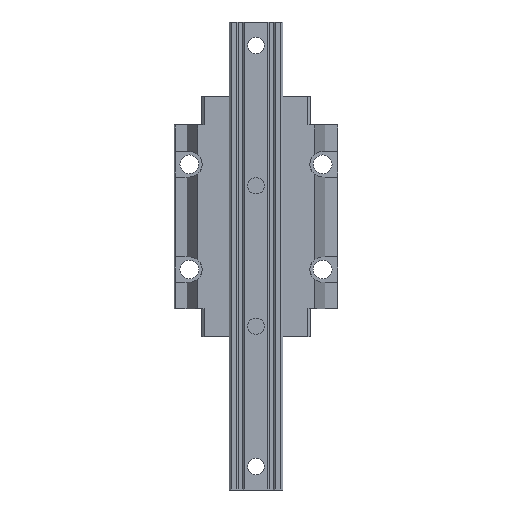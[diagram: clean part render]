
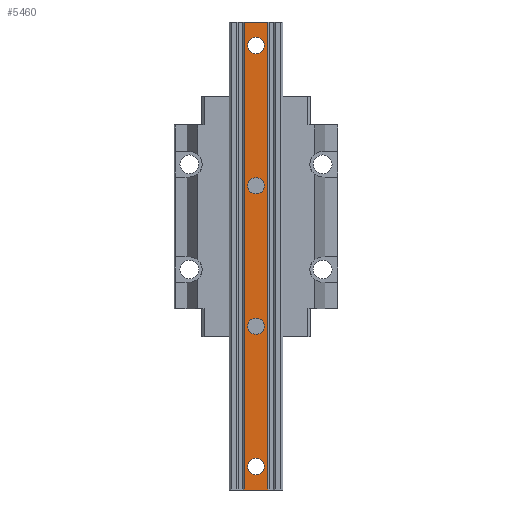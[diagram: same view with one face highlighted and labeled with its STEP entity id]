
A CAD part, front view. The second image highlights one B-rep face of the part: STEP entity #5460.
In plain terms, the highlighted planar face has unit normal (0, -1, 0).
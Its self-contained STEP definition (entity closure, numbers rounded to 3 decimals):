
#27 = PLANE ( 'NONE',  #4575 ) ;
#108 = DIRECTION ( 'NONE',  ( 0., 1., 0. ) ) ;
#110 = LINE ( 'NONE', #1212, #5954 ) ;
#130 = VERTEX_POINT ( 'NONE', #7275 ) ;
#266 = DIRECTION ( 'NONE',  ( 0., 1., 0. ) ) ;
#409 = AXIS2_PLACEMENT_3D ( 'NONE', #1025, #3206, #6596 ) ;
#437 = VERTEX_POINT ( 'NONE', #1636 ) ;
#454 = AXIS2_PLACEMENT_3D ( 'NONE', #3373, #4560, #1617 ) ;
#679 = CARTESIAN_POINT ( 'NONE',  ( 0., 0., -70. ) ) ;
#734 = LINE ( 'NONE', #1853, #4182 ) ;
#751 = AXIS2_PLACEMENT_3D ( 'NONE', #679, #5192, #2859 ) ;
#771 = AXIS2_PLACEMENT_3D ( 'NONE', #4436, #3834, #3284 ) ;
#828 = ORIENTED_EDGE ( 'NONE', *, *, #6935, .T. ) ;
#868 = AXIS2_PLACEMENT_3D ( 'NONE', #5169, #108, #4137 ) ;
#974 = CARTESIAN_POINT ( 'NONE',  ( -11.5, 0., -231.828 ) ) ;
#1025 = CARTESIAN_POINT ( 'NONE',  ( 0., 0., -190. ) ) ;
#1037 = EDGE_CURVE ( 'NONE', #4691, #5849, #6641, .T. ) ;
#1061 = VERTEX_POINT ( 'NONE', #1137 ) ;
#1070 = VERTEX_POINT ( 'NONE', #6164 ) ;
#1129 = FACE_BOUND ( 'NONE', #2939, .T. ) ;
#1137 = CARTESIAN_POINT ( 'NONE',  ( 4.929, 0., 0. ) ) ;
#1138 = CIRCLE ( 'NONE', #2546, 3.5 ) ;
#1212 = CARTESIAN_POINT ( 'NONE',  ( 11.5, 0., 0. ) ) ;
#1288 = ORIENTED_EDGE ( 'NONE', *, *, #2937, .T. ) ;
#1371 = EDGE_LOOP ( 'NONE', ( #6416, #1547, #3245, #5163 ) ) ;
#1399 = CIRCLE ( 'NONE', #454, 3.5 ) ;
#1495 = EDGE_CURVE ( 'NONE', #1061, #2638, #110, .T. ) ;
#1508 = VECTOR ( 'NONE', #1653, 1000. ) ;
#1547 = ORIENTED_EDGE ( 'NONE', *, *, #6107, .T. ) ;
#1554 = VERTEX_POINT ( 'NONE', #2049 ) ;
#1583 = LINE ( 'NONE', #6102, #1508 ) ;
#1617 = DIRECTION ( 'NONE',  ( 0., 0., 1. ) ) ;
#1636 = CARTESIAN_POINT ( 'NONE',  ( 0., 0., -66.5 ) ) ;
#1652 = EDGE_CURVE ( 'NONE', #1554, #1070, #3747, .T. ) ;
#1653 = DIRECTION ( 'NONE',  ( 0., 0., -1. ) ) ;
#1671 = FACE_OUTER_BOUND ( 'NONE', #1371, .T. ) ;
#1853 = CARTESIAN_POINT ( 'NONE',  ( 4.929, 0., -231.828 ) ) ;
#2049 = CARTESIAN_POINT ( 'NONE',  ( 0., 0., -193.5 ) ) ;
#2154 = VERTEX_POINT ( 'NONE', #5507 ) ;
#2257 = CARTESIAN_POINT ( 'NONE',  ( 0., 0., -130. ) ) ;
#2326 = CARTESIAN_POINT ( 'NONE',  ( 0., 0., -73.5 ) ) ;
#2346 = AXIS2_PLACEMENT_3D ( 'NONE', #2257, #266, #5930 ) ;
#2394 = VERTEX_POINT ( 'NONE', #5914 ) ;
#2544 = ORIENTED_EDGE ( 'NONE', *, *, #4536, .T. ) ;
#2546 = AXIS2_PLACEMENT_3D ( 'NONE', #7168, #5052, #2750 ) ;
#2574 = ORIENTED_EDGE ( 'NONE', *, *, #4963, .T. ) ;
#2638 = VERTEX_POINT ( 'NONE', #5309 ) ;
#2741 = LINE ( 'NONE', #5588, #3764 ) ;
#2750 = DIRECTION ( 'NONE',  ( 0., 0., 1. ) ) ;
#2759 = DIRECTION ( 'NONE',  ( 0., 0., 1. ) ) ;
#2859 = DIRECTION ( 'NONE',  ( 0., 0., 1. ) ) ;
#2937 = EDGE_CURVE ( 'NONE', #1070, #1554, #6419, .T. ) ;
#2939 = EDGE_LOOP ( 'NONE', ( #1288, #3753 ) ) ;
#2963 = DIRECTION ( 'NONE',  ( 0., 0., 1. ) ) ;
#3077 = EDGE_LOOP ( 'NONE', ( #6469, #6245 ) ) ;
#3091 = VERTEX_POINT ( 'NONE', #6180 ) ;
#3110 = CARTESIAN_POINT ( 'NONE',  ( 0., 0., -6.5 ) ) ;
#3206 = DIRECTION ( 'NONE',  ( 0., 1., 0. ) ) ;
#3245 = ORIENTED_EDGE ( 'NONE', *, *, #6680, .T. ) ;
#3284 = DIRECTION ( 'NONE',  ( 0., 0., 1. ) ) ;
#3373 = CARTESIAN_POINT ( 'NONE',  ( 0., 0., -70. ) ) ;
#3377 = CIRCLE ( 'NONE', #751, 3.5 ) ;
#3747 = CIRCLE ( 'NONE', #771, 3.5 ) ;
#3753 = ORIENTED_EDGE ( 'NONE', *, *, #1652, .T. ) ;
#3764 = VECTOR ( 'NONE', #5742, 1000. ) ;
#3833 = FACE_BOUND ( 'NONE', #3077, .T. ) ;
#3834 = DIRECTION ( 'NONE',  ( 0., 1., 0. ) ) ;
#4070 = CIRCLE ( 'NONE', #868, 3.5 ) ;
#4075 = EDGE_CURVE ( 'NONE', #2394, #1061, #734, .T. ) ;
#4118 = CIRCLE ( 'NONE', #2346, 3.5 ) ;
#4137 = DIRECTION ( 'NONE',  ( 0., 0., 1. ) ) ;
#4182 = VECTOR ( 'NONE', #2963, 1000. ) ;
#4298 = EDGE_LOOP ( 'NONE', ( #2544, #5313 ) ) ;
#4405 = CARTESIAN_POINT ( 'NONE',  ( 0., 0., -10. ) ) ;
#4436 = CARTESIAN_POINT ( 'NONE',  ( 0., 0., -190. ) ) ;
#4509 = FACE_BOUND ( 'NONE', #6771, .T. ) ;
#4536 = EDGE_CURVE ( 'NONE', #3091, #2154, #4070, .T. ) ;
#4537 = AXIS2_PLACEMENT_3D ( 'NONE', #4405, #7208, #2759 ) ;
#4560 = DIRECTION ( 'NONE',  ( 0., 1., 0. ) ) ;
#4575 = AXIS2_PLACEMENT_3D ( 'NONE', #974, #5561, #6085 ) ;
#4691 = VERTEX_POINT ( 'NONE', #6439 ) ;
#4963 = EDGE_CURVE ( 'NONE', #6443, #437, #3377, .T. ) ;
#4969 = FACE_BOUND ( 'NONE', #4298, .T. ) ;
#5052 = DIRECTION ( 'NONE',  ( 0., 1., 0. ) ) ;
#5163 = ORIENTED_EDGE ( 'NONE', *, *, #4075, .T. ) ;
#5169 = CARTESIAN_POINT ( 'NONE',  ( 0., 0., -130. ) ) ;
#5192 = DIRECTION ( 'NONE',  ( 0., 1., 0. ) ) ;
#5309 = CARTESIAN_POINT ( 'NONE',  ( -4.929, 0., 0. ) ) ;
#5313 = ORIENTED_EDGE ( 'NONE', *, *, #6399, .T. ) ;
#5460 = ADVANCED_FACE ( 'NONE', ( #1129, #4969, #4509, #3833, #1671 ), #27, .T. ) ;
#5507 = CARTESIAN_POINT ( 'NONE',  ( 0., 0., -133.5 ) ) ;
#5517 = EDGE_CURVE ( 'NONE', #5849, #4691, #1138, .T. ) ;
#5561 = DIRECTION ( 'NONE',  ( 0., -1., 0. ) ) ;
#5588 = CARTESIAN_POINT ( 'NONE',  ( 0., 0., -200. ) ) ;
#5742 = DIRECTION ( 'NONE',  ( 1., 0., 0. ) ) ;
#5849 = VERTEX_POINT ( 'NONE', #3110 ) ;
#5914 = CARTESIAN_POINT ( 'NONE',  ( 4.929, 0., -200. ) ) ;
#5930 = DIRECTION ( 'NONE',  ( 0., 0., 1. ) ) ;
#5954 = VECTOR ( 'NONE', #6338, 1000. ) ;
#6085 = DIRECTION ( 'NONE',  ( 0., 0., -1. ) ) ;
#6102 = CARTESIAN_POINT ( 'NONE',  ( -4.929, 0., -231.828 ) ) ;
#6107 = EDGE_CURVE ( 'NONE', #2638, #130, #1583, .T. ) ;
#6164 = CARTESIAN_POINT ( 'NONE',  ( 0., 0., -186.5 ) ) ;
#6180 = CARTESIAN_POINT ( 'NONE',  ( 0., 0., -126.5 ) ) ;
#6245 = ORIENTED_EDGE ( 'NONE', *, *, #1037, .T. ) ;
#6338 = DIRECTION ( 'NONE',  ( -1., 0., 0. ) ) ;
#6399 = EDGE_CURVE ( 'NONE', #2154, #3091, #4118, .T. ) ;
#6416 = ORIENTED_EDGE ( 'NONE', *, *, #1495, .T. ) ;
#6419 = CIRCLE ( 'NONE', #409, 3.5 ) ;
#6439 = CARTESIAN_POINT ( 'NONE',  ( 0., 0., -13.5 ) ) ;
#6443 = VERTEX_POINT ( 'NONE', #2326 ) ;
#6469 = ORIENTED_EDGE ( 'NONE', *, *, #5517, .T. ) ;
#6596 = DIRECTION ( 'NONE',  ( 0., 0., 1. ) ) ;
#6641 = CIRCLE ( 'NONE', #4537, 3.5 ) ;
#6680 = EDGE_CURVE ( 'NONE', #130, #2394, #2741, .T. ) ;
#6771 = EDGE_LOOP ( 'NONE', ( #828, #2574 ) ) ;
#6935 = EDGE_CURVE ( 'NONE', #437, #6443, #1399, .T. ) ;
#7168 = CARTESIAN_POINT ( 'NONE',  ( 0., 0., -10. ) ) ;
#7208 = DIRECTION ( 'NONE',  ( 0., 1., 0. ) ) ;
#7275 = CARTESIAN_POINT ( 'NONE',  ( -4.929, 0., -200. ) ) ;
